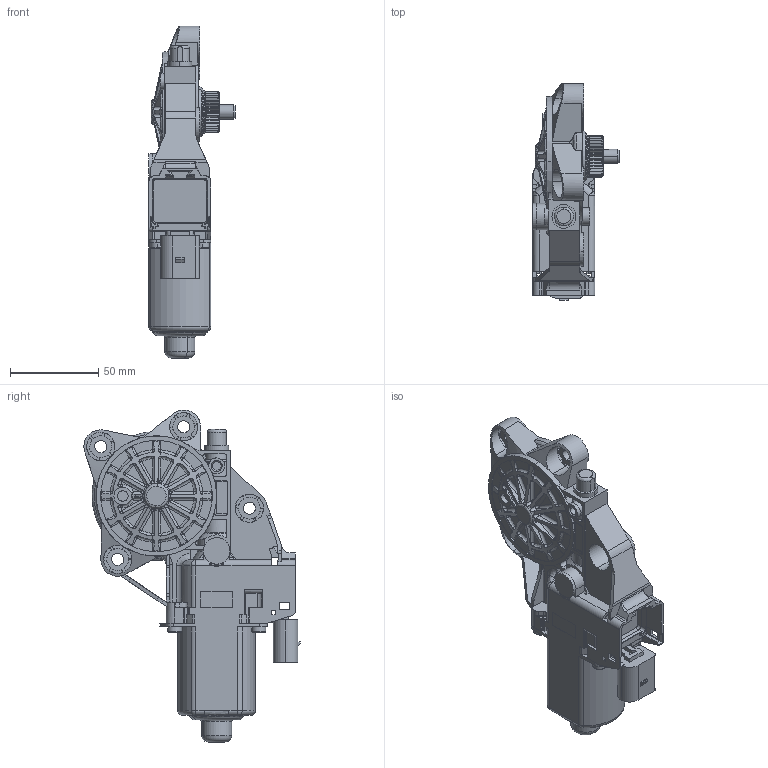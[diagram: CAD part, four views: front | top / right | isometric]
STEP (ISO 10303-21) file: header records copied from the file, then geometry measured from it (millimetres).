
FILE_DESCRIPTION(('CATIA V5 STEP Exchange'),'2;1');
FILE_NAME('E:\catcqev5\Result_Tmp\0546695\0546695~CATIAV52STEP~0130822490_AA.stp','2012-03-19T13:36:28+00:00',('none'),('none'),'CATIA Version 5 Release 19 SP 3 (IN-10)','CATIA V5 STEP AP214','none');
FILE_SCHEMA(('AUTOMOTIVE_DESIGN { 1 0 10303 214 1 1 1 1 }'));
Length unit declared in the file: millimetre
Products named in the file (1): 0130822490_AA-Katalog
Bounding box: 48.71 x 122.15 x 187.6 mm (x, y, z)
Volume: 273294.2 mm3; surface area: 55910.3 mm2
Topology: 1 solids, 2 shells, 1748 faces, 5018 edges, 3223 vertices
Faces by surface type: cylinder 648, plane 537, bspline 382, torus 123, cone 58
Entity records: 88321 total; most frequent: CARTESIAN_POINT 48697, ORIENTED_EDGE 9894, DIRECTION 5441, EDGE_CURVE 4947, VERTEX_POINT 3222, AXIS2_PLACEMENT_3D 2439, VECTOR 1875, LINE 1875
